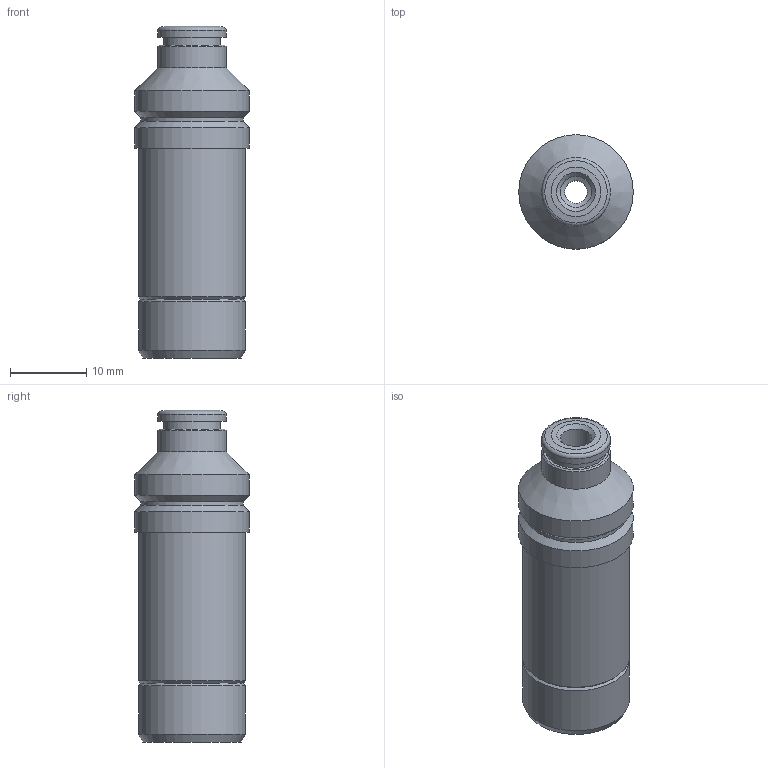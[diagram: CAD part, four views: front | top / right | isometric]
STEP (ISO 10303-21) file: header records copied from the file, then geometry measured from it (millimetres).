
FILE_DESCRIPTION(('Bauteilbeschreibung','HiCAD-Model','HiCAD-STEP-TRANSLATION','Bauteilbeschreibung'),'2;1');
FILE_NAME('B:/ABGLEICH/ZEICHNUNGEN/STEP FÜR INTERNET/STEP/IPSO 08/200812_IPSO_08_14_4.STP','2012-03-14T13:35:05+00:00',('Konstrukteur'),('Konstrukteur Firma GmbH'),' HiCAD neXt 2008, Step 3.1.1401.2J ','HiCAD neXt 2008','confidential');
FILE_SCHEMA(('AUTOMOTIVE_DESIGN { 1 2 10303 214 0 1 1 1 }'));
Length unit declared in the file: millimetre
Products named in the file (3): A00812_IPSO_08_14_4; R200812_N; DR4_1_NEU
Assembly tree (2 placements, depth 2):
  A00812_IPSO_08_14_4
    R200812_N
    DR4_1_NEU
Bounding box: 15 x 15 x 43.5 mm (x, y, z)
Volume: 5619.4 mm3; surface area: 2931.8 mm2
Topology: 2 solids, 2 shells, 37 faces, 68 edges, 38 vertices
Faces by surface type: cone 15, cylinder 14, plane 7, torus 1
Full cylindrical faces by diameter (mm): 3 x1, 4.1 x2, 6.4 x1, 7.3 x1, 7.4 x1, 7.6 x1, 9 x2, 13.4 x1, 14 x2, 15 x2
Entity records: 1013 total; most frequent: DIRECTION 156, CARTESIAN_POINT 115, AXIS2_PLACEMENT_3D 78, EDGE_LOOP 74, ORIENTED_EDGE 74, COLOUR_RGB 39, PRESENTATION_STYLE_ASSIGNMENT 39, ADVANCED_FACE 37
